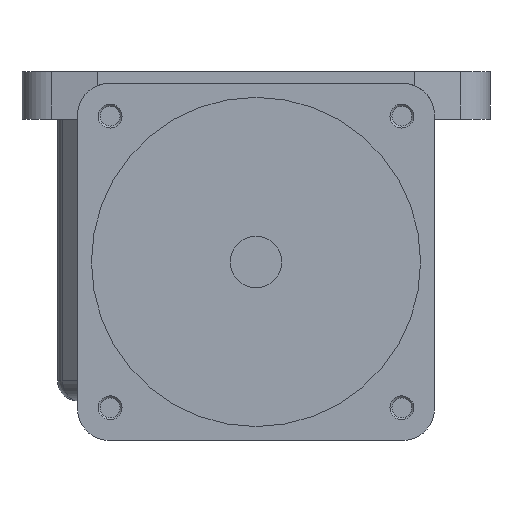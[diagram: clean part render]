
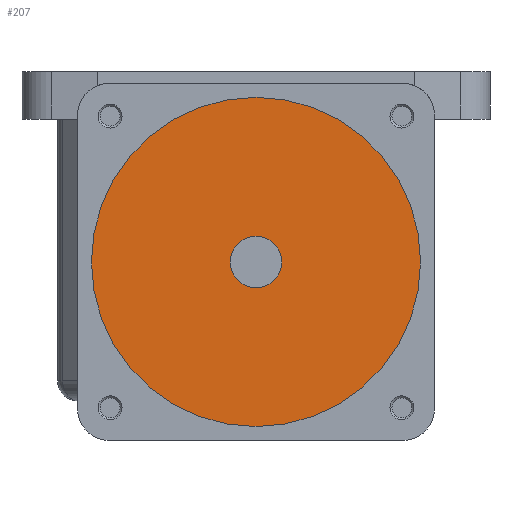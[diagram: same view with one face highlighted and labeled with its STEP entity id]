
A CAD part, left-side view. The second image highlights one B-rep face of the part: STEP entity #207.
In plain terms, the highlighted planar face has unit normal (-1, 0, 0).
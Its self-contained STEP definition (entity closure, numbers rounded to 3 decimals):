
#180=CARTESIAN_POINT('',(-67.7,0.0,-36.));
#181=DIRECTION('',(1.0,0.0,0.0));
#182=DIRECTION('',(0.0,0.0,-1.0));
#183=AXIS2_PLACEMENT_3D('',#180,#181,#182);
#184=PLANE('',#183);
#185=CARTESIAN_POINT('',(-67.7,0.,5.5));
#186=VERTEX_POINT('',#185);
#187=CARTESIAN_POINT('',(-67.7,0.0,-36.));
#188=DIRECTION('',(1.0,0.0,0.0));
#189=DIRECTION('',(0.0,0.0,-1.0));
#190=AXIS2_PLACEMENT_3D('',#187,#188,#189);
#191=CIRCLE('',#190,41.5);
#192=EDGE_CURVE('',#186,#186,#191,.T.);
#193=ORIENTED_EDGE('',*,*,#192,.F.);
#194=EDGE_LOOP('',(#193));
#195=FACE_OUTER_BOUND('',#194,.T.);
#196=CARTESIAN_POINT('',(-67.7,0.,-29.5));
#197=VERTEX_POINT('',#196);
#198=CARTESIAN_POINT('',(-67.7,0.,-36.));
#199=DIRECTION('',(1.0,0.0,0.0));
#200=DIRECTION('',(0.0,0.0,-1.0));
#201=AXIS2_PLACEMENT_3D('',#198,#199,#200);
#202=CIRCLE('',#201,6.5);
#203=EDGE_CURVE('',#197,#197,#202,.T.);
#204=ORIENTED_EDGE('',*,*,#203,.T.);
#205=EDGE_LOOP('',(#204));
#206=FACE_BOUND('',#205,.T.);
#207=ADVANCED_FACE('',(#195,#206),#184,.F.);
